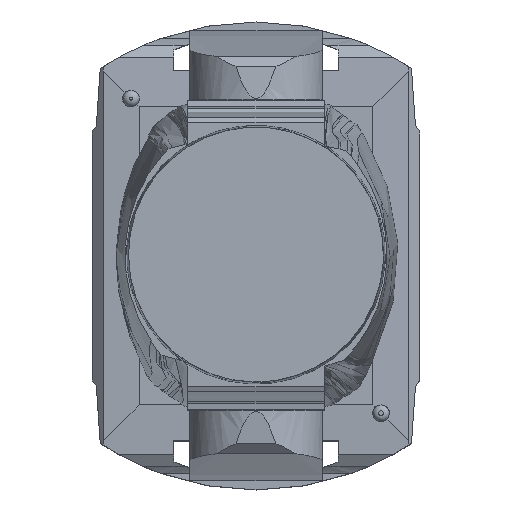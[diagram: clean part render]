
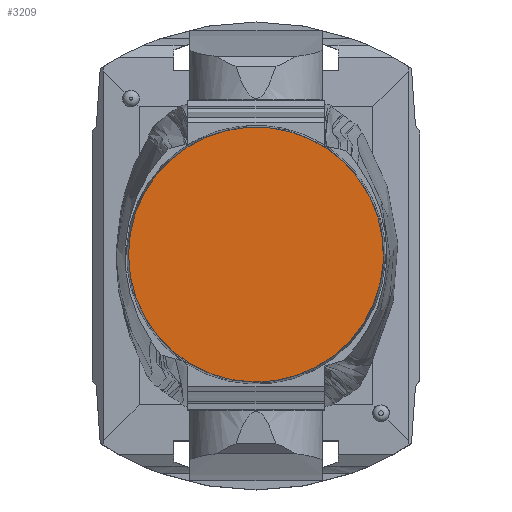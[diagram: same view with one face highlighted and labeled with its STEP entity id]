
A CAD part, top view. The second image highlights one B-rep face of the part: STEP entity #3209.
In plain terms, the highlighted planar face has unit normal (0, 0, 1).
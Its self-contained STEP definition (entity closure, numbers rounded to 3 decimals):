
#127=PLANE('',#3453);
#847=CIRCLE('',#3448,130.469);
#1793=ORIENTED_EDGE('',*,*,#2263,.F.);
#2263=EDGE_CURVE('',#2586,#2586,#847,.T.);
#2586=VERTEX_POINT('',#7688);
#2807=EDGE_LOOP('',(#1793));
#3004=FACE_BOUND('',#2807,.T.);
#3209=ADVANCED_FACE('',(#3004),#127,.F.);
#3448=AXIS2_PLACEMENT_3D('',#7687,#4082,#4083);
#3453=AXIS2_PLACEMENT_3D('',#7693,#4092,#4093);
#4082=DIRECTION('',(0.,0.,-1.));
#4083=DIRECTION('',(-1.,0.,0.));
#4092=DIRECTION('',(0.,0.,-1.));
#4093=DIRECTION('',(-1.,0.,0.));
#7687=CARTESIAN_POINT('',(0.,0.,869.161));
#7688=CARTESIAN_POINT('',(-130.469,0.,869.161));
#7693=CARTESIAN_POINT('',(0.,0.,869.161));
